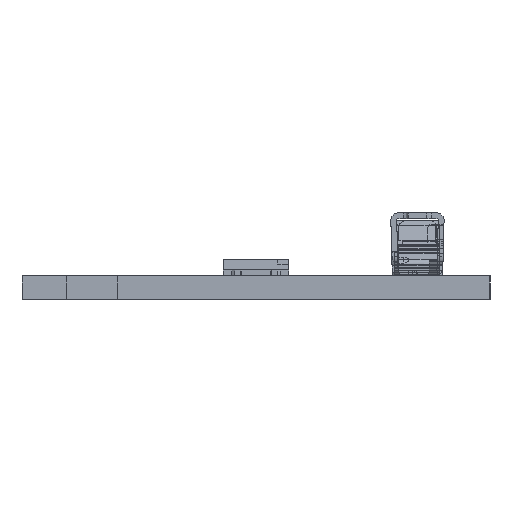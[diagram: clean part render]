
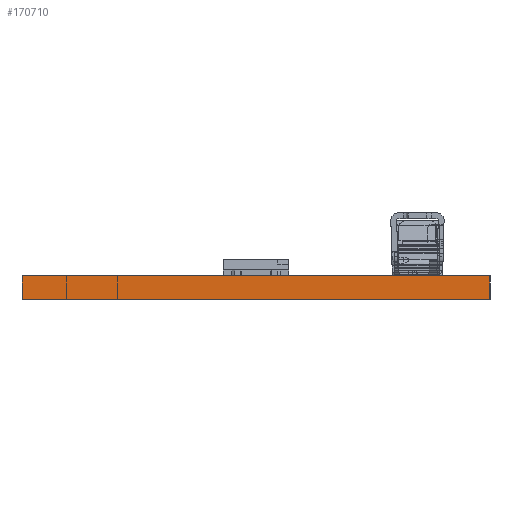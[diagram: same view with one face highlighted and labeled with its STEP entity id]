
A CAD part, left-side view. The second image highlights one B-rep face of the part: STEP entity #170710.
In plain terms, the highlighted planar face has unit normal (-1, 0, 0).
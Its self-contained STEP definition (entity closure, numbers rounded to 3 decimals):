
#157360=CARTESIAN_POINT('',(0.299,44.092,0.));
#157370=DIRECTION('',(0.,1.,0.));
#157380=VECTOR('',#157370,1.);
#157390=LINE('',#157360,#157380);
#157400=CARTESIAN_POINT('',(0.299,44.092,0.));
#157410=VERTEX_POINT('',#157400);
#157420=CARTESIAN_POINT('',(0.299,64.092,0.));
#157430=VERTEX_POINT('',#157420);
#157440=EDGE_CURVE('',#157410,#157430,#157390,.T.);
#170280=CARTESIAN_POINT('',(0.299,44.092,-1.));
#170290=VERTEX_POINT('',#170280);
#170320=CARTESIAN_POINT('',(0.299,44.092,0.));
#170330=DIRECTION('',(0.,0.,-1.));
#170340=VECTOR('',#170330,1.);
#170350=LINE('',#170320,#170340);
#170360=EDGE_CURVE('',#157410,#170290,#170350,.T.);
#170480=CARTESIAN_POINT('',(0.299,44.092,0.));
#170490=DIRECTION('',(1.,0.,0.));
#170500=DIRECTION('',(0.,-1.,0.));
#170510=AXIS2_PLACEMENT_3D('',#170480,#170490,#170500);
#170520=PLANE('',#170510);
#170530=ORIENTED_EDGE('',*,*,#157440,.T.);
#170540=ORIENTED_EDGE('',*,*,#170360,.F.);
#170550=CARTESIAN_POINT('',(0.299,44.092,-1.));
#170560=DIRECTION('',(0.,1.,0.));
#170570=VECTOR('',#170560,1.);
#170580=LINE('',#170550,#170570);
#170590=CARTESIAN_POINT('',(0.299,64.092,-1.));
#170600=VERTEX_POINT('',#170590);
#170610=EDGE_CURVE('',#170290,#170600,#170580,.T.);
#170620=ORIENTED_EDGE('',*,*,#170610,.F.);
#170630=CARTESIAN_POINT('',(0.299,64.092,0.));
#170640=DIRECTION('',(0.,0.,-1.));
#170650=VECTOR('',#170640,1.);
#170660=LINE('',#170630,#170650);
#170670=EDGE_CURVE('',#157430,#170600,#170660,.T.);
#170680=ORIENTED_EDGE('',*,*,#170670,.T.);
#170690=EDGE_LOOP('',(#170680,#170620,#170540,#170530));
#170700=FACE_OUTER_BOUND('',#170690,.T.);
#170710=ADVANCED_FACE('',(#170700),#170520,.F.);
